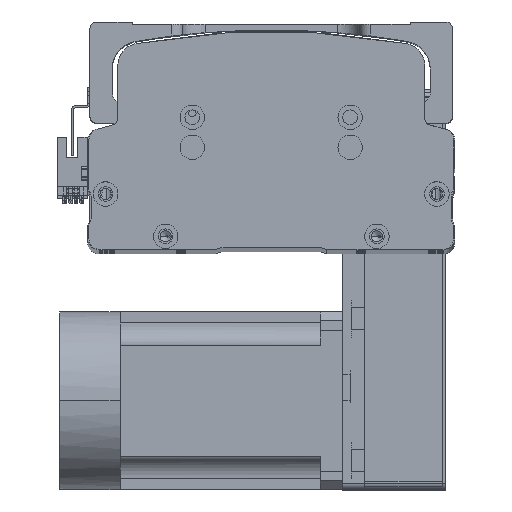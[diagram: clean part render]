
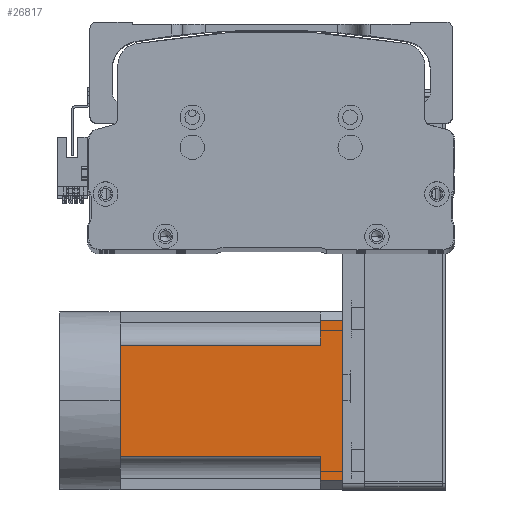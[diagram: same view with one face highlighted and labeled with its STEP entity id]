
A CAD part, top view. The second image highlights one B-rep face of the part: STEP entity #26817.
In plain terms, the highlighted planar face has unit normal (0, 0, 1) as drawn and (0, 0, -1) by its records, which use the part's own axes.
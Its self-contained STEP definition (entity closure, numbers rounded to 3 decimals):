
#2006 = CARTESIAN_POINT ( 'NONE',  ( -40., 0., -40. ) ) ;
#2227 = DIRECTION ( 'NONE',  ( 0., -1., 0. ) ) ;
#2803 = ORIENTED_EDGE ( 'NONE', *, *, #18359, .T. ) ;
#3254 = DIRECTION ( 'NONE',  ( -1., 0., 0. ) ) ;
#3870 = LINE ( 'NONE', #41697, #28718 ) ;
#4439 = EDGE_CURVE ( 'NONE', #35170, #16656, #15414, .T. ) ;
#6132 = CARTESIAN_POINT ( 'NONE',  ( -36., 100., -40. ) ) ;
#7811 = ORIENTED_EDGE ( 'NONE', *, *, #63453, .T. ) ;
#9152 = FACE_OUTER_BOUND ( 'NONE', #56661, .T. ) ;
#11030 = LINE ( 'NONE', #20440, #49224 ) ;
#11341 = LINE ( 'NONE', #13215, #23013 ) ;
#12519 = DIRECTION ( 'NONE',  ( 0., -1., 0. ) ) ;
#13215 = CARTESIAN_POINT ( 'NONE',  ( -40., 0., -40. ) ) ;
#13818 = CARTESIAN_POINT ( 'NONE',  ( -40., -27., -40. ) ) ;
#14640 = DIRECTION ( 'NONE',  ( -1., 0., 0. ) ) ;
#15414 = LINE ( 'NONE', #62000, #40364 ) ;
#15992 = VERTEX_POINT ( 'NONE', #51420 ) ;
#16656 = VERTEX_POINT ( 'NONE', #22333 ) ;
#17296 = CARTESIAN_POINT ( 'NONE',  ( 36., -27., -40. ) ) ;
#17861 = CARTESIAN_POINT ( 'NONE',  ( 36., 100., -40. ) ) ;
#18359 = EDGE_CURVE ( 'NONE', #25031, #35170, #36807, .T. ) ;
#18726 = CARTESIAN_POINT ( 'NONE',  ( 25., 90., -40. ) ) ;
#18795 = DIRECTION ( 'NONE',  ( 0., 0., -1. ) ) ;
#20440 = CARTESIAN_POINT ( 'NONE',  ( -36., -27., -40. ) ) ;
#21663 = CARTESIAN_POINT ( 'NONE',  ( -25., 90., -40. ) ) ;
#21873 = DIRECTION ( 'NONE',  ( -1., 0., 0. ) ) ;
#22333 = CARTESIAN_POINT ( 'NONE',  ( 25., 0., -40. ) ) ;
#22835 = VERTEX_POINT ( 'NONE', #28681 ) ;
#23013 = VECTOR ( 'NONE', #3254, 1000. ) ;
#25031 = VERTEX_POINT ( 'NONE', #45602 ) ;
#26441 = DIRECTION ( 'NONE',  ( -1., 0., 0. ) ) ;
#26817 = ADVANCED_FACE ( 'NONE', ( #9152 ), #43668, .T. ) ;
#28335 = ORIENTED_EDGE ( 'NONE', *, *, #45451, .T. ) ;
#28681 = CARTESIAN_POINT ( 'NONE',  ( -36., 90., -40. ) ) ;
#28718 = VECTOR ( 'NONE', #51519, 1000. ) ;
#29087 = ORIENTED_EDGE ( 'NONE', *, *, #62904, .T. ) ;
#29187 = ORIENTED_EDGE ( 'NONE', *, *, #4439, .T. ) ;
#30031 = LINE ( 'NONE', #17296, #53401 ) ;
#31738 = VECTOR ( 'NONE', #36826, 1000. ) ;
#35170 = VERTEX_POINT ( 'NONE', #18726 ) ;
#36807 = LINE ( 'NONE', #56770, #58556 ) ;
#36826 = DIRECTION ( 'NONE',  ( -1., 0., 0. ) ) ;
#36946 = VERTEX_POINT ( 'NONE', #6132 ) ;
#38596 = VERTEX_POINT ( 'NONE', #21663 ) ;
#40330 = VECTOR ( 'NONE', #14640, 1000. ) ;
#40364 = VECTOR ( 'NONE', #2227, 1000. ) ;
#41520 = CARTESIAN_POINT ( 'NONE',  ( 0., 0., -40. ) ) ;
#41568 = AXIS2_PLACEMENT_3D ( 'NONE', #13818, #18795, #53662 ) ;
#41697 = CARTESIAN_POINT ( 'NONE',  ( -25., -27., -40. ) ) ;
#43568 = ORIENTED_EDGE ( 'NONE', *, *, #53721, .T. ) ;
#43668 = PLANE ( 'NONE',  #41568 ) ;
#44278 = VERTEX_POINT ( 'NONE', #17861 ) ;
#44662 = VERTEX_POINT ( 'NONE', #41520 ) ;
#45314 = DIRECTION ( 'NONE',  ( 0., 1., 0. ) ) ;
#45451 = EDGE_CURVE ( 'NONE', #38596, #22835, #52010, .T. ) ;
#45602 = CARTESIAN_POINT ( 'NONE',  ( 36., 90., -40. ) ) ;
#46611 = ORIENTED_EDGE ( 'NONE', *, *, #55737, .T. ) ;
#49224 = VECTOR ( 'NONE', #45314, 1000. ) ;
#51284 = CARTESIAN_POINT ( 'NONE',  ( -40., 100., -40. ) ) ;
#51420 = CARTESIAN_POINT ( 'NONE',  ( -25., 0., -40. ) ) ;
#51519 = DIRECTION ( 'NONE',  ( 0., 1., 0. ) ) ;
#51607 = EDGE_CURVE ( 'NONE', #15992, #38596, #3870, .T. ) ;
#52010 = LINE ( 'NONE', #64461, #40330 ) ;
#52722 = LINE ( 'NONE', #51284, #54274 ) ;
#53145 = EDGE_CURVE ( 'NONE', #44278, #36946, #52722, .T. ) ;
#53401 = VECTOR ( 'NONE', #12519, 1000. ) ;
#53662 = DIRECTION ( 'NONE',  ( -1., 0., 0. ) ) ;
#53721 = EDGE_CURVE ( 'NONE', #44278, #25031, #30031, .T. ) ;
#54274 = VECTOR ( 'NONE', #26441, 1000. ) ;
#55737 = EDGE_CURVE ( 'NONE', #22835, #36946, #11030, .T. ) ;
#56661 = EDGE_LOOP ( 'NONE', ( #58944, #43568, #2803, #29187, #29087, #7811, #58041, #28335, #46611 ) ) ;
#56676 = LINE ( 'NONE', #2006, #31738 ) ;
#56770 = CARTESIAN_POINT ( 'NONE',  ( -40., 90., -40. ) ) ;
#58041 = ORIENTED_EDGE ( 'NONE', *, *, #51607, .T. ) ;
#58556 = VECTOR ( 'NONE', #21873, 1000. ) ;
#58944 = ORIENTED_EDGE ( 'NONE', *, *, #53145, .F. ) ;
#62000 = CARTESIAN_POINT ( 'NONE',  ( 25., -27., -40. ) ) ;
#62904 = EDGE_CURVE ( 'NONE', #16656, #44662, #56676, .T. ) ;
#63453 = EDGE_CURVE ( 'NONE', #44662, #15992, #11341, .T. ) ;
#64461 = CARTESIAN_POINT ( 'NONE',  ( -40., 90., -40. ) ) ;
